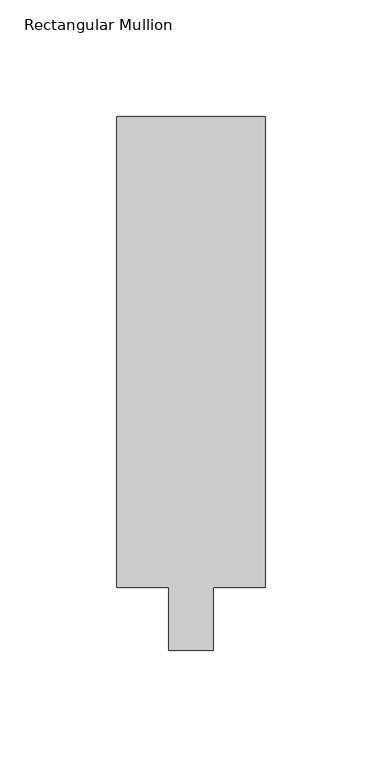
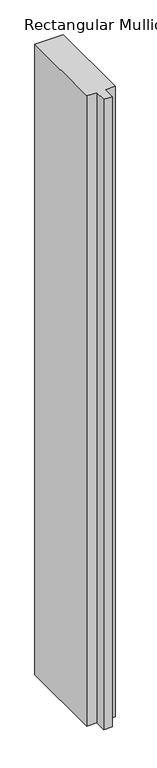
"""IFC4 building model written with IfcOpenShell, lengths in millimetres: member geometry."""

from ifc_helpers import new_model, si_unit, frame, origin, place, context, project, spatial, polyline, outline, extrude, source, transform, mapped, element, save


def rectangular_mullion_7b2152c2(model_context):
    return source(origin(), model_context, "Body", "SweptSolid", [
        extrude(outline(polyline([(0.0, 228.6), (0.0, 26.9875), (-22.225, 26.9875), (-22.225, 0.0), (-41.275, 0.0), (-41.275, 26.9875), (-63.5, 26.9875), (-63.5, 228.6), (0.0, 228.6)])), frame((0.0, 0.0, -1494.3666667), z_axis=(0.0, 0.0, 1.0), x_axis=(1.0, 0.0, 0.0)), (0.0, 0.0, 1.0), 1494.3666667),
    ])


if __name__ == "__main__":
    model = new_model("IFC4")
    model_context = context("Model", 3, world=origin())
    ifc_project = project(units=[si_unit("LENGTHUNIT", "METRE", prefix="MILLI")], contexts=[model_context])
    site = spatial("IfcSite", under=ifc_project)
    building = spatial("IfcBuilding", under=site)
    placement = place(None, origin())
    rectangular_mullion_shape = rectangular_mullion_7b2152c2(model_context)
    element("IfcMember", 1, ObjectType="Rectangular Mullion : 2 1/2\" x 8\" - Capless", at=placement, inside=building, context=model_context, shape_type="MappedRepresentation", body=[
        mapped(rectangular_mullion_shape, transform((0.0, 0.0, 0.0), x_axis=(1.0, 0.0, 0.0), y_axis=(0.0, 1.0, 0.0), z_axis=(0.0, 0.0, 1.0))),
    ])
    save(model, "model.ifc")
